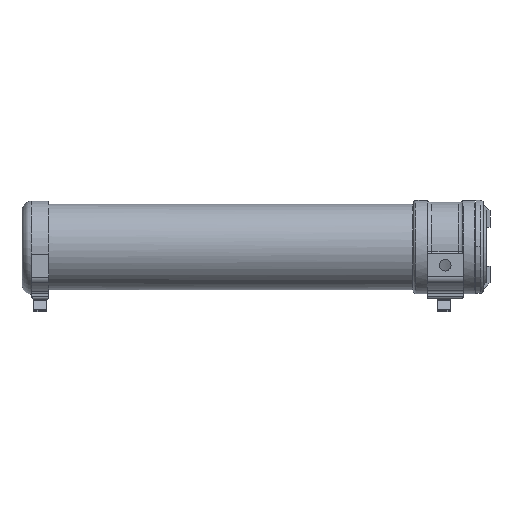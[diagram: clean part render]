
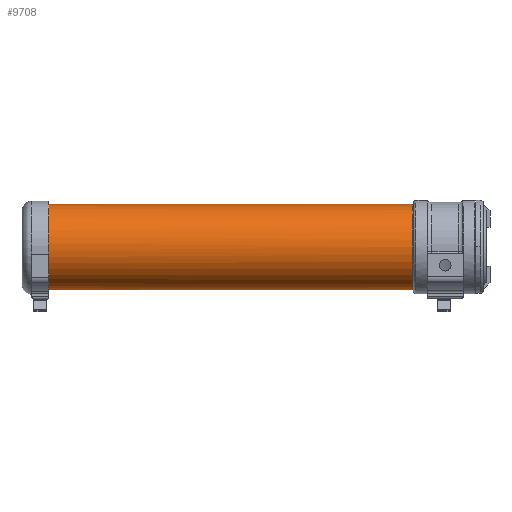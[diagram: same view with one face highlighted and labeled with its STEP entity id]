
A CAD part, left-side view. The second image highlights one B-rep face of the part: STEP entity #9708.
In plain terms, the highlighted cylindrical face has radius 65.419 mm (diameter 130.838 mm), a partial arc.
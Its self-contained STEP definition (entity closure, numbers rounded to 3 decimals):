
#96 = CARTESIAN_POINT ( 'NONE',  ( 0., 94.581, -65.419 ) ) ;
#185 = LINE ( 'NONE', #4408, #2510 ) ;
#317 = EDGE_CURVE ( 'NONE', #10811, #7828, #185, .T. ) ;
#705 = VECTOR ( 'NONE', #13187, 1000. ) ;
#1041 = DIRECTION ( 'NONE',  ( 0., 0., -1. ) ) ;
#1058 = ORIENTED_EDGE ( 'NONE', *, *, #11320, .T. ) ;
#1080 = DIRECTION ( 'NONE',  ( 0., 0., -1. ) ) ;
#1615 = AXIS2_PLACEMENT_3D ( 'NONE', #3165, #8305, #1080 ) ;
#1624 = VERTEX_POINT ( 'NONE', #2140 ) ;
#2034 = VERTEX_POINT ( 'NONE', #13117 ) ;
#2140 = CARTESIAN_POINT ( 'NONE',  ( -26.291, 649.581, -59.903 ) ) ;
#2510 = VECTOR ( 'NONE', #7392, 1000. ) ;
#2706 = CIRCLE ( 'NONE', #10008, 65.419 ) ;
#2752 = DIRECTION ( 'NONE',  ( 0., -1., 0. ) ) ;
#3165 = CARTESIAN_POINT ( 'NONE',  ( 0., 94.581, 0. ) ) ;
#3402 = EDGE_CURVE ( 'NONE', #1624, #7828, #5484, .T. ) ;
#3735 = DIRECTION ( 'NONE',  ( 0., 0., 1. ) ) ;
#4408 = CARTESIAN_POINT ( 'NONE',  ( 0., 94.581, -65.419 ) ) ;
#4447 = CIRCLE ( 'NONE', #7110, 65.419 ) ;
#4674 = AXIS2_PLACEMENT_3D ( 'NONE', #12196, #10116, #3735 ) ;
#4724 = LINE ( 'NONE', #8962, #705 ) ;
#4896 = CARTESIAN_POINT ( 'NONE',  ( 0., 649.581, 0. ) ) ;
#5442 = ORIENTED_EDGE ( 'NONE', *, *, #3402, .T. ) ;
#5484 = CIRCLE ( 'NONE', #5698, 65.419 ) ;
#5542 = CARTESIAN_POINT ( 'NONE',  ( 0., 649.581, 0. ) ) ;
#5561 = EDGE_CURVE ( 'NONE', #8820, #10811, #13575, .T. ) ;
#5698 = AXIS2_PLACEMENT_3D ( 'NONE', #4896, #2752, #13430 ) ;
#6089 = ORIENTED_EDGE ( 'NONE', *, *, #317, .F. ) ;
#6637 = ORIENTED_EDGE ( 'NONE', *, *, #9662, .T. ) ;
#6648 = CYLINDRICAL_SURFACE ( 'NONE', #4674, 65.419 ) ;
#7110 = AXIS2_PLACEMENT_3D ( 'NONE', #5542, #10538, #1041 ) ;
#7154 = ORIENTED_EDGE ( 'NONE', *, *, #8404, .T. ) ;
#7208 = CARTESIAN_POINT ( 'NONE',  ( 0., 649.581, 65.419 ) ) ;
#7392 = DIRECTION ( 'NONE',  ( 0., 1., 0. ) ) ;
#7828 = VERTEX_POINT ( 'NONE', #8706 ) ;
#8305 = DIRECTION ( 'NONE',  ( 0., -1., 0. ) ) ;
#8404 = EDGE_CURVE ( 'NONE', #8820, #13567, #4724, .T. ) ;
#8706 = CARTESIAN_POINT ( 'NONE',  ( 0., 649.581, -65.419 ) ) ;
#8798 = CARTESIAN_POINT ( 'NONE',  ( 0., 649.581, 0. ) ) ;
#8802 = FACE_OUTER_BOUND ( 'NONE', #13124, .T. ) ;
#8820 = VERTEX_POINT ( 'NONE', #13083 ) ;
#8962 = CARTESIAN_POINT ( 'NONE',  ( 0., 94.581, 65.419 ) ) ;
#9011 = DIRECTION ( 'NONE',  ( 0., 0., -1. ) ) ;
#9662 = EDGE_CURVE ( 'NONE', #2034, #1624, #4447, .T. ) ;
#9708 = ADVANCED_FACE ( 'NONE', ( #8802 ), #6648, .T. ) ;
#9909 = DIRECTION ( 'NONE',  ( 0., -1., 0. ) ) ;
#10008 = AXIS2_PLACEMENT_3D ( 'NONE', #8798, #9909, #9011 ) ;
#10116 = DIRECTION ( 'NONE',  ( 0., 1., 0. ) ) ;
#10538 = DIRECTION ( 'NONE',  ( 0., -1., 0. ) ) ;
#10811 = VERTEX_POINT ( 'NONE', #96 ) ;
#11320 = EDGE_CURVE ( 'NONE', #13567, #2034, #2706, .T. ) ;
#11586 = ORIENTED_EDGE ( 'NONE', *, *, #5561, .F. ) ;
#12196 = CARTESIAN_POINT ( 'NONE',  ( 0., 94.581, 0. ) ) ;
#13083 = CARTESIAN_POINT ( 'NONE',  ( 0., 94.581, 65.419 ) ) ;
#13117 = CARTESIAN_POINT ( 'NONE',  ( -65.203, 649.581, -5.315 ) ) ;
#13124 = EDGE_LOOP ( 'NONE', ( #6089, #11586, #7154, #1058, #6637, #5442 ) ) ;
#13187 = DIRECTION ( 'NONE',  ( 0., 1., 0. ) ) ;
#13430 = DIRECTION ( 'NONE',  ( 0., 0., -1. ) ) ;
#13567 = VERTEX_POINT ( 'NONE', #7208 ) ;
#13575 = CIRCLE ( 'NONE', #1615, 65.419 ) ;
